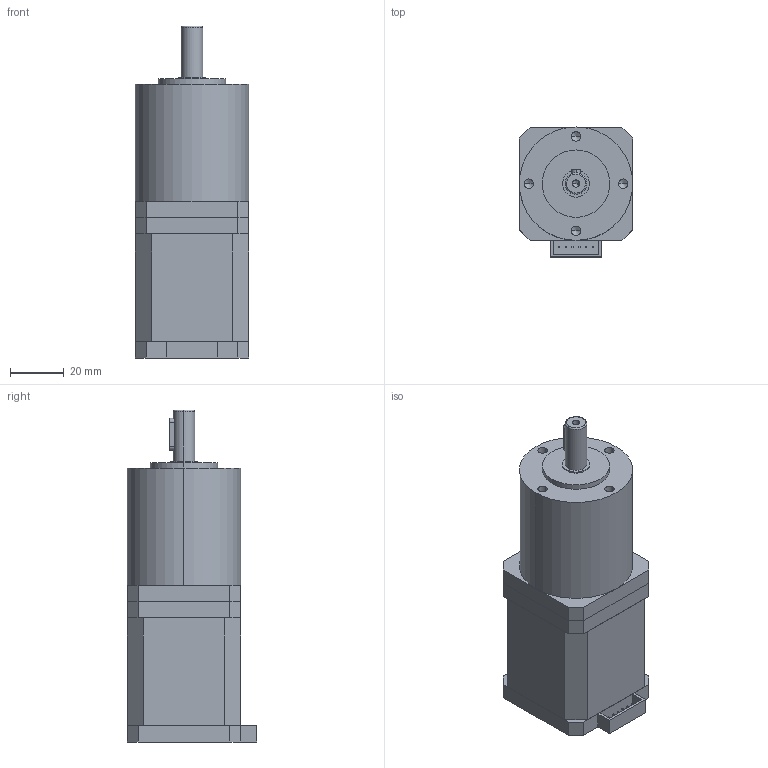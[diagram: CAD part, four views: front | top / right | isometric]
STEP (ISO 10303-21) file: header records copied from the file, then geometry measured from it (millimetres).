
FILE_DESCRIPTION (( 'STEP AP203' ), '1' );
FILE_NAME ('42PG015-D20-0450.STEP', '2019-09-21T09:21:13', ( 'China' ), ( 'Home' ), 'SwSTEP 2.0', 'SolidWorks 2016', '' );
FILE_SCHEMA (( 'CONFIG_CONTROL_DESIGN' ));
Length unit declared in the file: millimetre
Products named in the file (1): 42PG015-D20-0450
Bounding box: 42 x 48 x 123 mm (x, y, z)
Volume: 161183 mm3; surface area: 30202 mm2
Topology: 5 solids, 5 shells, 123 faces, 291 edges, 183 vertices
Faces by surface type: plane 90, cylinder 21, cone 10, bspline 2
Entity records: 3508 total; most frequent: CARTESIAN_POINT 624, DIRECTION 569, ORIENTED_EDGE 562, EDGE_CURVE 281, VECTOR 233, LINE 233, VERTEX_POINT 183, AXIS2_PLACEMENT_3D 168
